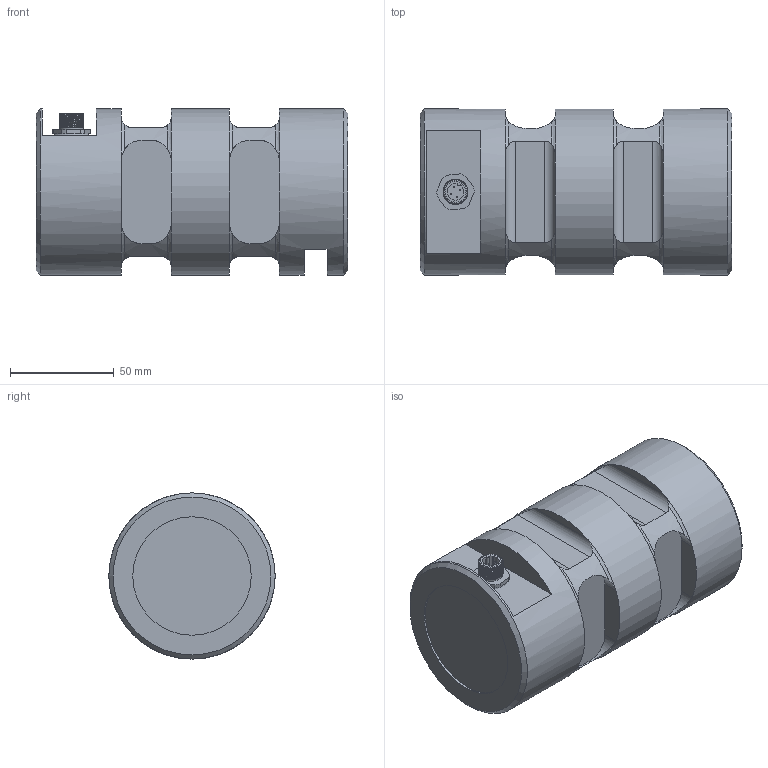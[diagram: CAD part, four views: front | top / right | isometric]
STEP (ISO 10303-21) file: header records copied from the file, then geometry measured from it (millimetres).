
FILE_DESCRIPTION(/* description */ ('Alibre Inc.'),/* implementation_level */ '2;1');
FILE_NAME(/* name */ 'export0',/* time_stamp */ '2016-03-02T21:25:20+01:00',/* author */ (''),/* organization */ (''),/* preprocessor_version */ 'ST-DEVELOPER v14',/* originating_system */ 'Alibre',/* authorisation */ '');
FILE_SCHEMA (('CONFIG_CONTROL_DESIGN'));
Length unit declared in the file: centimetre
Products named in the file (6): ID_1; ID_2; ID_3; ID_4
Bounding box: 150 x 80 x 80 mm (x, y, z)
Volume: 666106.3 mm3; surface area: 57461.9 mm2
Topology: 8 solids, 8 shells, 200 faces, 456 edges, 279 vertices
Faces by surface type: plane 83, cylinder 71, bspline 23, torus 17, cone 6
Full cylindrical faces by diameter (mm): 0.5 x8, 8 x2, 10 x4, 11.5 x1, 13 x1, 14.376 x1, 57 x1, 80 x3
Entity records: 18550 total; most frequent: CARTESIAN_POINT 14375, ORIENTED_EDGE 838, DIRECTION 511, EDGE_CURVE 414, VERTEX_POINT 267, FACE_BOUND 244, EDGE_LOOP 243, AXIS2_PLACEMENT_3D 226
